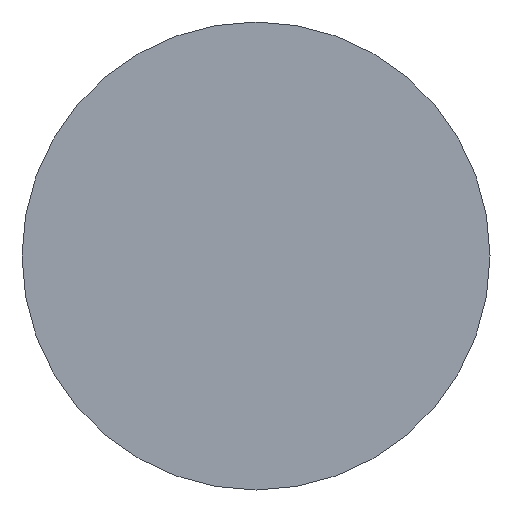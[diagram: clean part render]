
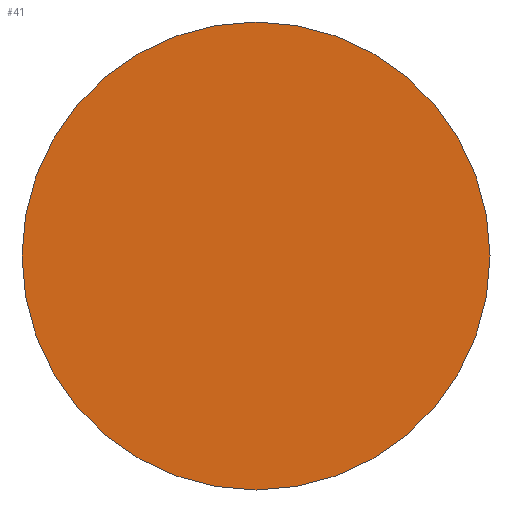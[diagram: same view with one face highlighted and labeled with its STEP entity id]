
A CAD part, front view. The second image highlights one B-rep face of the part: STEP entity #41.
In plain terms, the highlighted planar face has unit normal (0, -1, 0).
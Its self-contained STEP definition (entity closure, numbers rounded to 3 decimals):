
#41 = ADVANCED_FACE( '', ( #81 ), #82, .F. );
#81 = FACE_OUTER_BOUND( '', #114, .T. );
#82 = PLANE( '', #115 );
#114 = EDGE_LOOP( '', ( #151 ) );
#115 = AXIS2_PLACEMENT_3D( '', #152, #153, #154 );
#151 = ORIENTED_EDGE( '', *, *, #163, .F. );
#152 = CARTESIAN_POINT( '', ( 0., -21., 0. ) );
#153 = DIRECTION( '', ( 0., 1., 0. ) );
#154 = DIRECTION( '', ( 0., 0., 1. ) );
#163 = EDGE_CURVE( '', #177, #177, #178, .T. );
#177 = VERTEX_POINT( '', #196 );
#178 = CIRCLE( '', #197, 12. );
#196 = CARTESIAN_POINT( '', ( 0., -21., 12. ) );
#197 = AXIS2_PLACEMENT_3D( '', #215, #216, #217 );
#215 = CARTESIAN_POINT( '', ( 0., -21., 0. ) );
#216 = DIRECTION( '', ( 0., 1., 0. ) );
#217 = DIRECTION( '', ( 0., 0., 1. ) );
